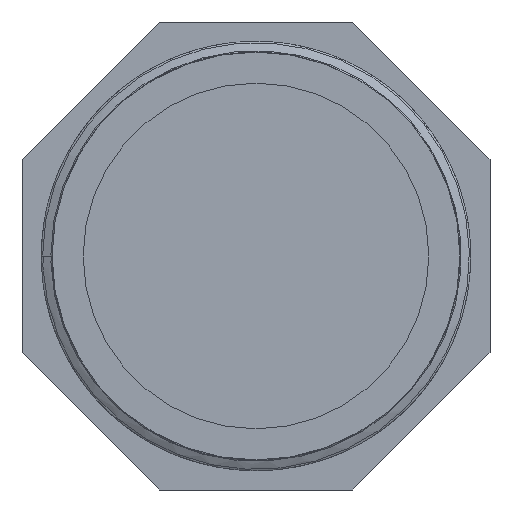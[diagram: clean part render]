
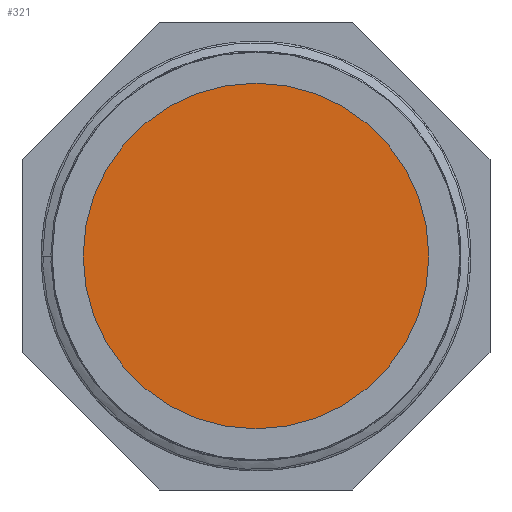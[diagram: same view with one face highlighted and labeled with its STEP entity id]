
A CAD part, front view. The second image highlights one B-rep face of the part: STEP entity #321.
In plain terms, the highlighted planar face has unit normal (0, -1, 0).
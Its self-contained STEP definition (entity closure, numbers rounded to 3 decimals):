
#22=PLANE('',#342);
#37=CIRCLE('',#343,24.);
#47=FACE_OUTER_BOUND('',#68,.T.);
#68=EDGE_LOOP('',(#263));
#166=VERTEX_POINT('',#5022);
#202=EDGE_CURVE('',#166,#166,#37,.T.);
#263=ORIENTED_EDGE('',*,*,#202,.F.);
#321=ADVANCED_FACE('',(#47),#22,.T.);
#342=AXIS2_PLACEMENT_3D('',#5021,#383,#384);
#343=AXIS2_PLACEMENT_3D('',#5023,#385,#386);
#383=DIRECTION('center_axis',(0.,-1.,0.));
#384=DIRECTION('ref_axis',(0.,0.,-1.));
#385=DIRECTION('center_axis',(0.,1.,0.));
#386=DIRECTION('ref_axis',(1.,0.,0.));
#5021=CARTESIAN_POINT('Origin',(0.,27.,0.));
#5022=CARTESIAN_POINT('',(-24.,27.,0.));
#5023=CARTESIAN_POINT('Origin',(0.,27.,0.));
